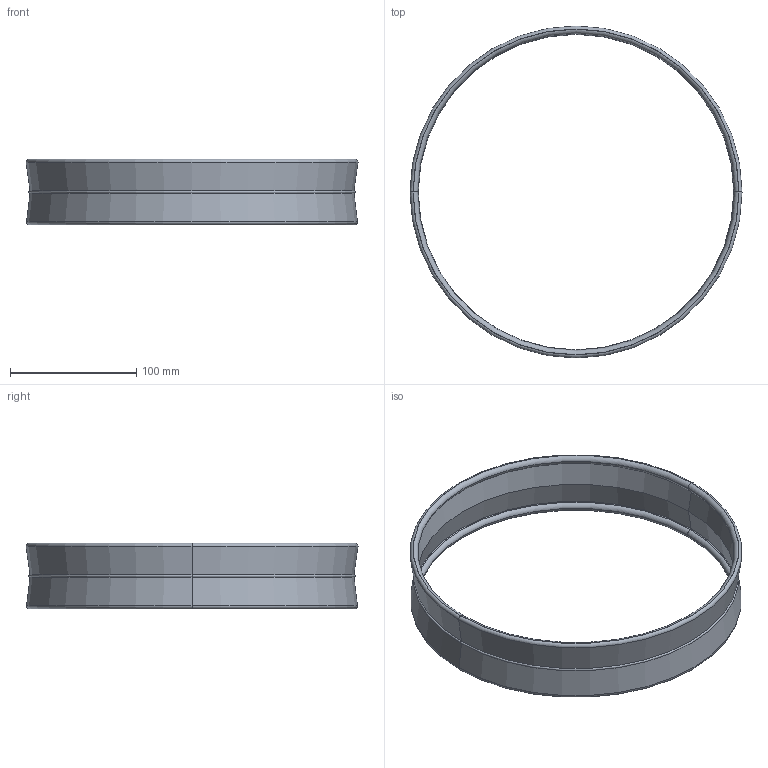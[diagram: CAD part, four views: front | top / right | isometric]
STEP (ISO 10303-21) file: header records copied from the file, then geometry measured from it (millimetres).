
FILE_DESCRIPTION (( 'STEP AP214' ), '1' );
FILE_NAME ('0938 Schutzring.STEP', '2025-03-26T13:36:21', ( '' ), ( '' ), 'SwSTEP 2.0', 'SolidWorks 2022', '' );
FILE_SCHEMA (( 'AUTOMOTIVE_DESIGN' ));
Length unit declared in the file: millimetre
Products named in the file (1): 0938 Schutzring
Bounding box: 262.97 x 262.97 x 52.1 mm (x, y, z)
Volume: 111210.7 mm3; surface area: 95283.8 mm2
Topology: 1 solids, 1 shells, 30 faces, 60 edges, 34 vertices
Faces by surface type: torus 18, cone 8, plane 4
Entity records: 1160 total; most frequent: DIRECTION 174, CARTESIAN_POINT 125, ORIENTED_EDGE 120, AXIS2_PLACEMENT_3D 83, EDGE_CURVE 60, CIRCLE 52, EDGE_LOOP 34, VERTEX_POINT 34
